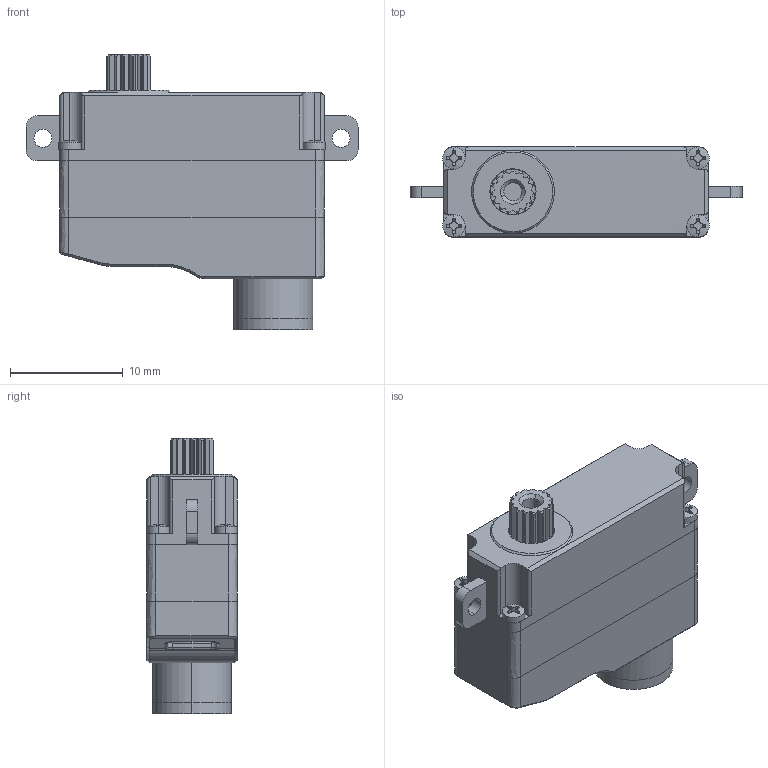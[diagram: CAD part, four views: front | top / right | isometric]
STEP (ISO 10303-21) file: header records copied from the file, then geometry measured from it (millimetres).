
FILE_DESCRIPTION (( 'STEP AP214' ), '1' );
FILE_NAME ('X08H-3.2_DM_20231028.STEP', '2023-10-28T05:27:22', ( '' ), ( '' ), 'SwSTEP 2.0', 'SolidWorks 2016', '' );
FILE_SCHEMA (( 'AUTOMOTIVE_DESIGN' ));
Length unit declared in the file: millimetre
Products named in the file (1): X08H-3.2_DM_20231028
Bounding box: 29.5 x 8 x 24.45 mm (x, y, z)
Surface area: 2319.4 mm2 (no closed solid volume)
Topology: 0 solids, 10 shells, 311 faces, 953 edges, 640 vertices
Faces by surface type: plane 145, cylinder 119, cone 27, bspline 12, sphere 8
Entity records: 14452 total; most frequent: CARTESIAN_POINT 2700, ORIENTED_EDGE 1746, DIRECTION 1709, EDGE_CURVE 953, AXIS2_PLACEMENT_3D 653, VERTEX_POINT 640, VECTOR 403, LINE 403
